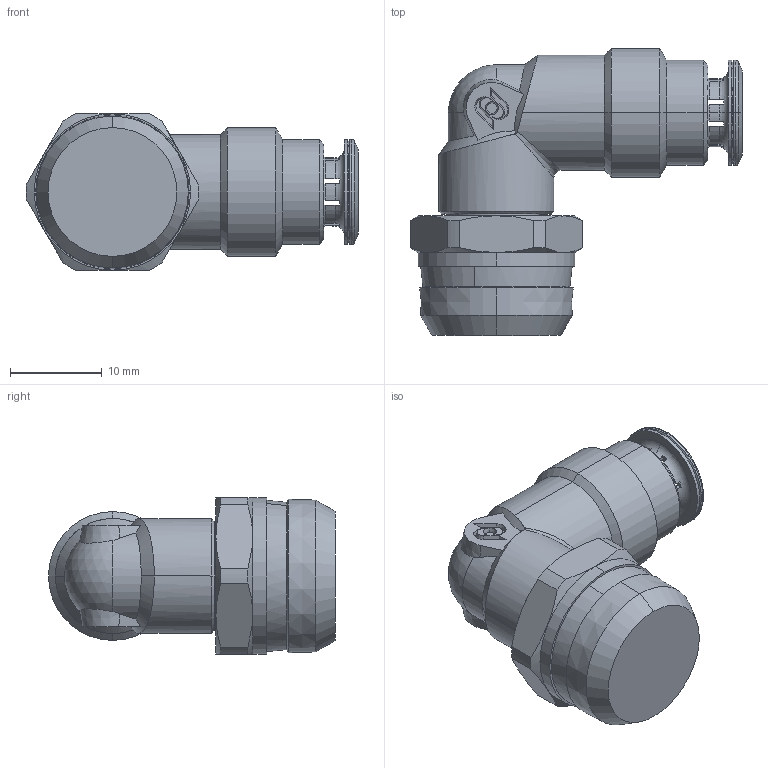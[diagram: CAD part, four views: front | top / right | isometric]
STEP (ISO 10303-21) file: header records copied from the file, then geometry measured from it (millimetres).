
FILE_DESCRIPTION (( 'STEP AP214' ), '1' );
FILE_NAME ('84111H0007.STEP', '2019-12-11T08:29:49', ( '' ), ( '' ), 'SwSTEP 2.0', 'SolidWorks 2016', '' );
FILE_SCHEMA (( 'AUTOMOTIVE_DESIGN' ));
Length unit declared in the file: millimetre
Products named in the file (1): 84111H0007
Bounding box: 36.1 x 31.2 x 17 mm (x, y, z)
Volume: 6968.3 mm3; surface area: 2839.7 mm2
Topology: 1 solids, 3 shells, 172 faces, 457 edges, 295 vertices
Faces by surface type: plane 68, cone 53, cylinder 39, torus 6, bspline 5, sphere 1
Entity records: 7888 total; most frequent: CARTESIAN_POINT 1805, ORIENTED_EDGE 914, DIRECTION 844, EDGE_CURVE 457, AXIS2_PLACEMENT_3D 334, VERTEX_POINT 295, EDGE_LOOP 192, LINE 176
